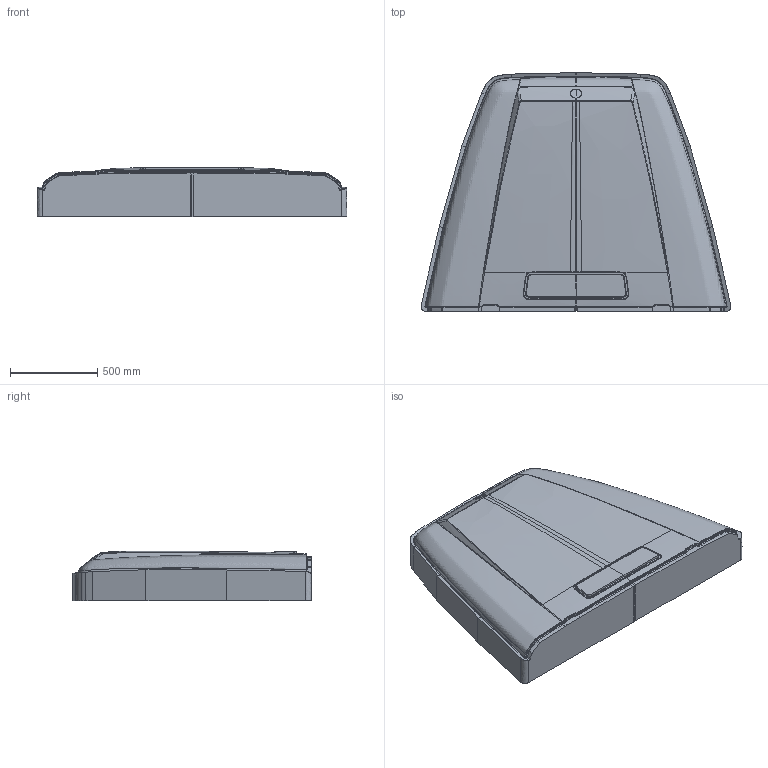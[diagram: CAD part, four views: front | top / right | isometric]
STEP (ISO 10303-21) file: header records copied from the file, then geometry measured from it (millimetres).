
FILE_DESCRIPTION(/* description */ (''),/* implementation_level */ '2;1');
FILE_NAME(/* name */ 'MCUI2X~B',/* time_stamp */ '2019-09-17T19:16:32+02:00',/* author */ (''),/* organization */ (''),/* preprocessor_version */ 'ST-DEVELOPER v15',/* originating_system */ '',/* authorisation */ '');
FILE_SCHEMA (('CONFIG_CONTROL_DESIGN'));
Products named in the file (1): Document
Bounding box: 1776.4 x 1367.99 x 285.97 mm (x, y, z)
Surface area: 5202531 mm2 (no closed solid volume)
Topology: 0 solids, 372 shells, 372 faces, 2232 edges, 2224 vertices
Faces by surface type: bspline 360, plane 12
Entity records: 462410 total; most frequent: CARTESIAN_POINT 451308, ORIENTED_EDGE 2226, EDGE_CURVE 2226, VERTEX_POINT 2224, B_SPLINE_CURVE_WITH_KNOTS 2124, SHELL_BASED_SURFACE_MODEL 370, OPEN_SHELL 370, ADVANCED_FACE 370
